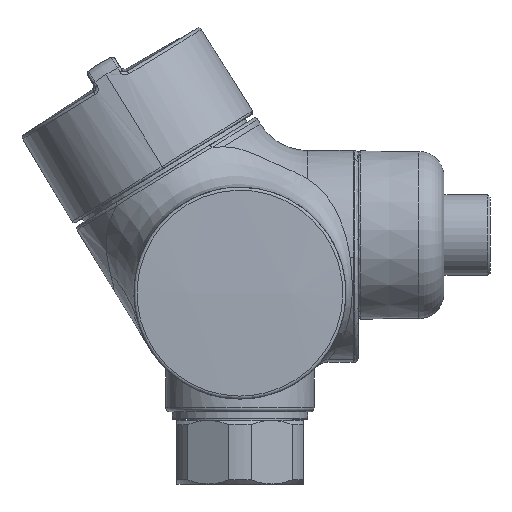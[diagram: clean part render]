
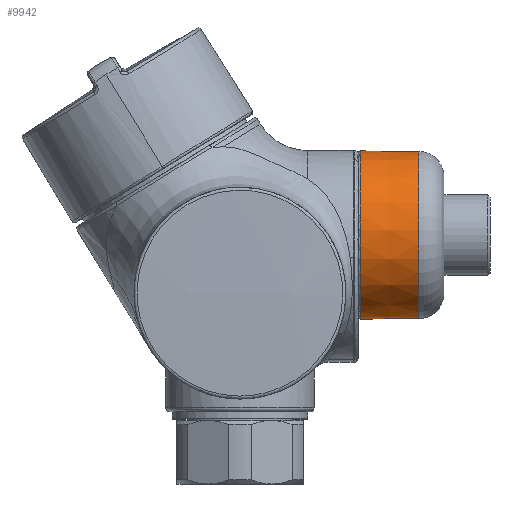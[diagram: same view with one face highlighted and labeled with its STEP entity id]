
A CAD part, left-side view. The second image highlights one B-rep face of the part: STEP entity #9942.
In plain terms, the highlighted conical face has half-angle 0.5 degrees and reference radius 19.909 mm.
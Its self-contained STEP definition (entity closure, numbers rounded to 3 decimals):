
#477 = AXIS2_PLACEMENT_3D ( 'NONE', #3970, #20916, #1516 ) ;
#1516 = DIRECTION ( 'NONE',  ( 0.549, 0., 0.836 ) ) ;
#1800 = CARTESIAN_POINT ( 'NONE',  ( 0., -28.333, 58.747 ) ) ;
#3970 = CARTESIAN_POINT ( 'NONE',  ( 0., -27.633, 58.747 ) ) ;
#4266 = DIRECTION ( 'NONE',  ( -0.549, 0., -0.836 ) ) ;
#4553 = CARTESIAN_POINT ( 'NONE',  ( 0., -42.185, 58.747 ) ) ;
#4642 = CIRCLE ( 'NONE', #5596, 19.903 ) ;
#5596 = AXIS2_PLACEMENT_3D ( 'NONE', #1800, #18812, #4266 ) ;
#6654 = ORIENTED_EDGE ( 'NONE', *, *, #15332, .T. ) ;
#6780 = ORIENTED_EDGE ( 'NONE', *, *, #8619, .T. ) ;
#6985 = DIRECTION ( 'NONE',  ( 0.549, 0., 0.836 ) ) ;
#7712 = CONICAL_SURFACE ( 'NONE', #477, 19.909, 0.009 ) ;
#7870 = FACE_OUTER_BOUND ( 'NONE', #26410, .T. ) ;
#7992 = FACE_BOUND ( 'NONE', #28611, .T. ) ;
#8619 = EDGE_CURVE ( 'NONE', #20539, #20539, #9026, .T. ) ;
#9026 = CIRCLE ( 'NONE', #24294, 19.782 ) ;
#9942 = ADVANCED_FACE ( 'NONE', ( #7870, #7992 ), #7712, .T. ) ;
#14806 = CARTESIAN_POINT ( 'NONE',  ( 10.851, -42.185, 75.287 ) ) ;
#15332 = EDGE_CURVE ( 'NONE', #21563, #21563, #4642, .T. ) ;
#18812 = DIRECTION ( 'NONE',  ( 0., -1., 0. ) ) ;
#20539 = VERTEX_POINT ( 'NONE', #14806 ) ;
#20916 = DIRECTION ( 'NONE',  ( 0., 1., 0. ) ) ;
#21486 = DIRECTION ( 'NONE',  ( 0., 1., 0. ) ) ;
#21563 = VERTEX_POINT ( 'NONE', #24369 ) ;
#24294 = AXIS2_PLACEMENT_3D ( 'NONE', #4553, #21486, #6985 ) ;
#24369 = CARTESIAN_POINT ( 'NONE',  ( -10.918, -28.333, 42.106 ) ) ;
#26410 = EDGE_LOOP ( 'NONE', ( #6654 ) ) ;
#28611 = EDGE_LOOP ( 'NONE', ( #6780 ) ) ;
